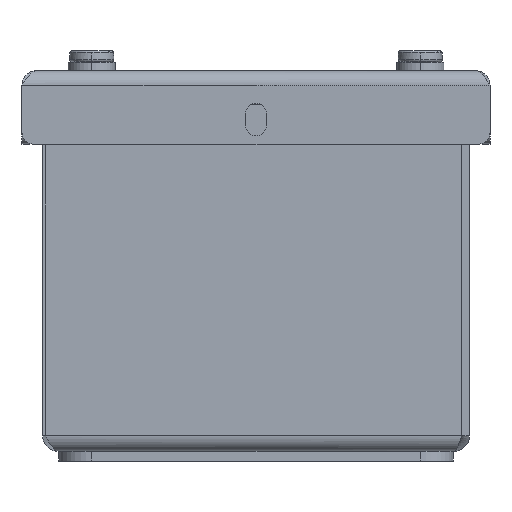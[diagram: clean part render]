
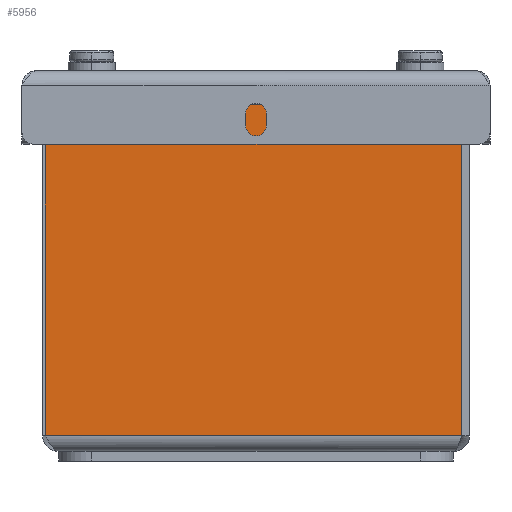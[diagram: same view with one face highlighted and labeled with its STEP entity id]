
A CAD part, left-side view. The second image highlights one B-rep face of the part: STEP entity #5956.
In plain terms, the highlighted planar face has unit normal (-1, 0, 0).
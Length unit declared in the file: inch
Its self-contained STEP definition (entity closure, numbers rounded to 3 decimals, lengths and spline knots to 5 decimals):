
#288=DIRECTION('',(0.,-1.,0.));
#289=VECTOR('',#288,3.168);
#290=CARTESIAN_POINT('',(0.,3.228,0.12));
#291=LINE('',#290,#289);
#1789=DIRECTION('',(0.,-1.,0.));
#1790=VECTOR('',#1789,2.47175);
#1791=CARTESIAN_POINT('',(0.,3.228,2.638));
#1792=LINE('',#1791,#1790);
#1888=DIRECTION('',(0.,0.,1.));
#1889=VECTOR('',#1888,2.518);
#1890=CARTESIAN_POINT('',(0.,3.228,0.12));
#1891=LINE('',#1890,#1889);
#1895=DIRECTION('',(0.,0.,1.));
#1896=VECTOR('',#1895,0.042);
#1897=CARTESIAN_POINT('',(0.,0.75625,2.638));
#1898=LINE('',#1897,#1896);
#1902=DIRECTION('',(0.,1.,0.));
#1903=VECTOR('',#1902,0.65125);
#1904=CARTESIAN_POINT('',(0.,0.105,2.68));
#1905=LINE('',#1904,#1903);
#1909=CARTESIAN_POINT('',(0.,0.105,2.635));
#1910=DIRECTION('',(-1.,0.,0.));
#1911=DIRECTION('',(0.,-1.,0.));
#1912=AXIS2_PLACEMENT_3D('',#1909,#1910,#1911);
#1959=DIRECTION('',(0.,0.,1.));
#1960=VECTOR('',#1959,2.515);
#1961=CARTESIAN_POINT('',(0.,0.06,0.12));
#1962=LINE('',#1961,#1960);
#3680=CARTESIAN_POINT('',(0.,0.75625,2.638));
#3681=CARTESIAN_POINT('',(0.,0.75625,2.68));
#3682=VERTEX_POINT('',#3680);
#3683=VERTEX_POINT('',#3681);
#3808=CARTESIAN_POINT('',(0.,3.228,0.12));
#3809=CARTESIAN_POINT('',(0.,3.228,2.638));
#3810=VERTEX_POINT('',#3808);
#3811=VERTEX_POINT('',#3809);
#3872=CARTESIAN_POINT('',(0.,0.06,2.635));
#3873=CARTESIAN_POINT('',(0.,0.105,2.68));
#3874=VERTEX_POINT('',#3872);
#3875=VERTEX_POINT('',#3873);
#3880=CARTESIAN_POINT('',(0.,0.06,0.12));
#3881=VERTEX_POINT('',#3880);
#5938=CARTESIAN_POINT('',(0.,3.25,0.));
#5939=DIRECTION('',(-1.,0.,0.));
#5940=DIRECTION('',(0.,-1.,0.));
#5941=AXIS2_PLACEMENT_3D('',#5938,#5939,#5940);
#5942=PLANE('',#5941);
#5943=ORIENTED_EDGE('',*,*,#5463,.T.);
#5944=ORIENTED_EDGE('',*,*,#5928,.T.);
#5946=ORIENTED_EDGE('',*,*,#5945,.T.);
#5948=ORIENTED_EDGE('',*,*,#5947,.F.);
#5950=ORIENTED_EDGE('',*,*,#5949,.F.);
#5952=ORIENTED_EDGE('',*,*,#5951,.F.);
#5953=ORIENTED_EDGE('',*,*,#4278,.F.);
#5954=EDGE_LOOP('',(#5943,#5944,#5946,#5948,#5950,#5952,#5953));
#5955=FACE_OUTER_BOUND('',#5954,.F.);
#1913=CIRCLE('',#1912,0.045);
#4278=EDGE_CURVE('',#3810,#3881,#291,.T.);
#5463=EDGE_CURVE('',#3810,#3811,#1891,.T.);
#5928=EDGE_CURVE('',#3811,#3682,#1792,.T.);
#5945=EDGE_CURVE('',#3682,#3683,#1898,.T.);
#5947=EDGE_CURVE('',#3875,#3683,#1905,.T.);
#5949=EDGE_CURVE('',#3874,#3875,#1913,.T.);
#5951=EDGE_CURVE('',#3881,#3874,#1962,.T.);
#5956=ADVANCED_FACE('',(#5955),#5942,.T.);
